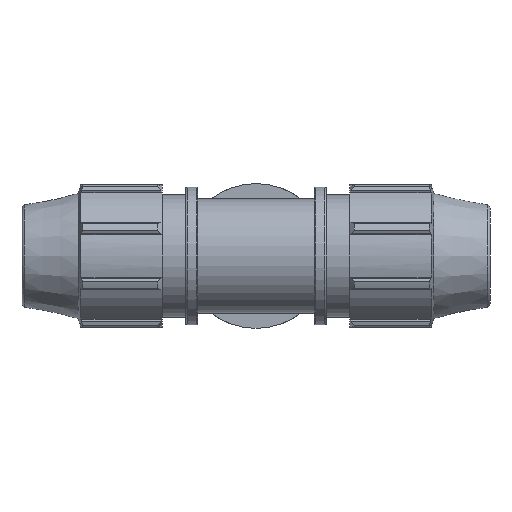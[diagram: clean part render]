
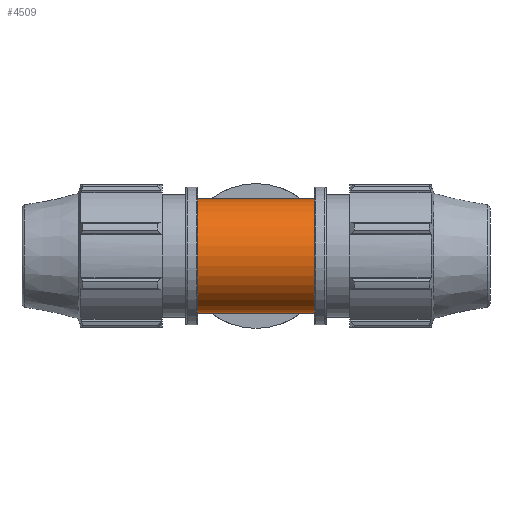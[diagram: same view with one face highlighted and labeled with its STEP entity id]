
A CAD part, front view. The second image highlights one B-rep face of the part: STEP entity #4509.
In plain terms, the highlighted cylindrical face has radius 18.002 mm (diameter 36.005 mm), a full revolution.
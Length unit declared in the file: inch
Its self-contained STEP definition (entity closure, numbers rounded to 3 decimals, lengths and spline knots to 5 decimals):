
#250=FACE_BOUND('',#1298,.T.);
#270=LINE('',#6723,#633);
#633=VECTOR('',#5246,0.70875);
#995=CYLINDRICAL_SURFACE('',#4766,0.70875);
#1062=FACE_OUTER_BOUND('',#1297,.T.);
#1297=EDGE_LOOP('',(#2935,#2936,#2937,#2938,#2939,#2940));
#1298=EDGE_LOOP('',(#2941));
#1550=B_SPLINE_CURVE_WITH_KNOTS('',3,(#6684,#6685,#6686,#6687,#6688,#6689,
#6690,#6691,#6692,#6693,#6694,#6695,#6696,#6697,#6698,#6699,#6700,#6701,
#6702,#6703,#6704,#6705,#6706,#6707,#6708),.UNSPECIFIED.,.T.,.F.,(4,1,1,
1,1,1,1,1,1,1,1,1,1,1,1,1,1,1,1,1,1,1,4),(-9.93185,-9.57714,
-9.22243,-8.51302,-8.04007,-7.56712,
-7.09418,-6.62123,-5.67534,-5.2024,
-4.96593,-4.72945,-4.49298,-4.25651,
-3.78356,-3.54709,-2.83767,-2.36473,
-1.89178,-1.41884,-0.70942,-0.35471,
0.),.UNSPECIFIED.);
#1566=CIRCLE('',#4767,0.70875);
#1567=CIRCLE('',#4768,0.70875);
#1568=CIRCLE('',#4769,0.70875);
#1569=CIRCLE('',#4770,0.70875);
#1791=VERTEX_POINT('',#6651);
#1797=VERTEX_POINT('',#6718);
#1798=VERTEX_POINT('',#6719);
#1799=VERTEX_POINT('',#6722);
#1800=VERTEX_POINT('',#6724);
#2251=EDGE_CURVE('',#1791,#1791,#1550,.T.);
#2256=EDGE_CURVE('',#1797,#1798,#1566,.T.);
#2257=EDGE_CURVE('',#1798,#1797,#1567,.T.);
#2258=EDGE_CURVE('',#1798,#1799,#270,.T.);
#2259=EDGE_CURVE('',#1799,#1800,#1568,.T.);
#2260=EDGE_CURVE('',#1800,#1799,#1569,.T.);
#2935=ORIENTED_EDGE('',*,*,#2256,.F.);
#2936=ORIENTED_EDGE('',*,*,#2257,.F.);
#2937=ORIENTED_EDGE('',*,*,#2258,.T.);
#2938=ORIENTED_EDGE('',*,*,#2259,.T.);
#2939=ORIENTED_EDGE('',*,*,#2260,.T.);
#2940=ORIENTED_EDGE('',*,*,#2258,.F.);
#2941=ORIENTED_EDGE('',*,*,#2251,.F.);
#4509=ADVANCED_FACE('',(#1062,#250),#995,.T.);
#4766=AXIS2_PLACEMENT_3D('',#6717,#5240,#5241);
#4767=AXIS2_PLACEMENT_3D('',#6720,#5242,#5243);
#4768=AXIS2_PLACEMENT_3D('',#6721,#5244,#5245);
#4769=AXIS2_PLACEMENT_3D('',#6725,#5247,#5248);
#4770=AXIS2_PLACEMENT_3D('',#6726,#5249,#5250);
#5240=DIRECTION('center_axis',(1.,0.,0.));
#5241=DIRECTION('ref_axis',(0.,1.,0.));
#5242=DIRECTION('center_axis',(1.,0.,0.));
#5243=DIRECTION('ref_axis',(0.,0.,-1.));
#5244=DIRECTION('center_axis',(1.,0.,0.));
#5245=DIRECTION('ref_axis',(0.,0.,-1.));
#5246=DIRECTION('',(-1.,0.,0.));
#5247=DIRECTION('center_axis',(1.,0.,0.));
#5248=DIRECTION('ref_axis',(0.,0.,-1.));
#5249=DIRECTION('center_axis',(1.,0.,0.));
#5250=DIRECTION('ref_axis',(0.,0.,-1.));
#6651=CARTESIAN_POINT('',(0.,0.37254,0.60294));
#6684=CARTESIAN_POINT('Ctrl Pts',(0.,0.37254,
0.60294));
#6685=CARTESIAN_POINT('Ctrl Pts',(0.05115,0.37254,
0.60294));
#6686=CARTESIAN_POINT('Ctrl Pts',(0.15252,0.39287,0.59084));
#6687=CARTESIAN_POINT('Ctrl Pts',(0.32646,0.47734,0.5297));
#6688=CARTESIAN_POINT('Ctrl Pts',(0.47934,0.58563,0.41625));
#6689=CARTESIAN_POINT('Ctrl Pts',(0.59636,0.67592,0.23768));
#6690=CARTESIAN_POINT('Ctrl Pts',(0.64573,0.71623,0.0499));
#6691=CARTESIAN_POINT('Ctrl Pts',(0.62918,0.70204,-0.14717));
#6692=CARTESIAN_POINT('Ctrl Pts',(0.52414,0.62023,-0.37643));
#6693=CARTESIAN_POINT('Ctrl Pts',(0.34397,0.48323,-0.52896));
#6694=CARTESIAN_POINT('Ctrl Pts',(0.13674,0.38594,-0.59485));
#6695=CARTESIAN_POINT('Ctrl Pts',(-0.00018,0.36804,
-0.60565));
#6696=CARTESIAN_POINT('Ctrl Pts',(-0.10208,0.38138,-0.59761));
#6697=CARTESIAN_POINT('Ctrl Pts',(-0.19635,0.41403,
-0.57587));
#6698=CARTESIAN_POINT('Ctrl Pts',(-0.30991,0.47102,-0.53214));
#6699=CARTESIAN_POINT('Ctrl Pts',(-0.40862,0.5359,
-0.46835));
#6700=CARTESIAN_POINT('Ctrl Pts',(-0.53371,0.62638,
-0.345));
#6701=CARTESIAN_POINT('Ctrl Pts',(-0.62561,0.69972,
-0.1804));
#6702=CARTESIAN_POINT('Ctrl Pts',(-0.64603,0.71625,
0.05008));
#6703=CARTESIAN_POINT('Ctrl Pts',(-0.59622,0.67592,
0.23758));
#6704=CARTESIAN_POINT('Ctrl Pts',(-0.47945,0.58564,
0.41631));
#6705=CARTESIAN_POINT('Ctrl Pts',(-0.32643,0.47735,
0.52966));
#6706=CARTESIAN_POINT('Ctrl Pts',(-0.15253,0.39286,
0.59085));
#6707=CARTESIAN_POINT('Ctrl Pts',(-0.05115,0.37254,
0.60294));
#6708=CARTESIAN_POINT('Ctrl Pts',(0.,0.37254,
0.60294));
#6717=CARTESIAN_POINT('Origin',(0.36188,0.,0.));
#6718=CARTESIAN_POINT('',(0.72375,0.70875,0.));
#6719=CARTESIAN_POINT('',(0.72375,-0.70875,0.));
#6720=CARTESIAN_POINT('Origin',(0.72375,0.,0.));
#6721=CARTESIAN_POINT('Origin',(0.72375,0.,0.));
#6722=CARTESIAN_POINT('',(-0.72375,-0.70875,0.));
#6723=CARTESIAN_POINT('',(0.36188,-0.70875,0.));
#6724=CARTESIAN_POINT('',(-0.72375,0.70875,0.));
#6725=CARTESIAN_POINT('Origin',(-0.72375,0.,0.));
#6726=CARTESIAN_POINT('Origin',(-0.72375,0.,0.));
